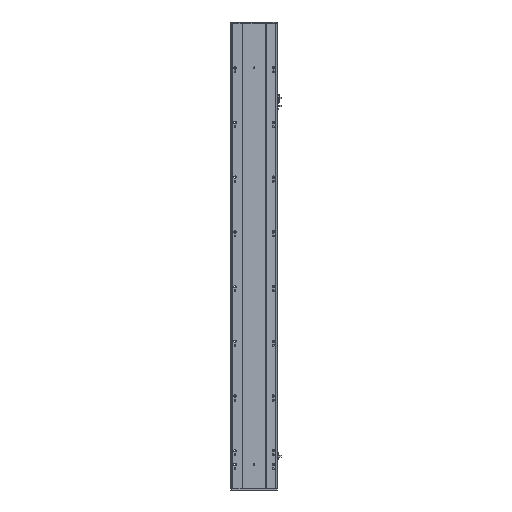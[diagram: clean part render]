
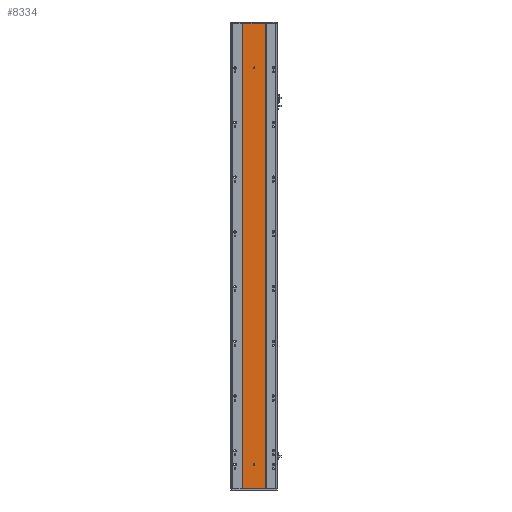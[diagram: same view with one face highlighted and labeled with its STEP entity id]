
A CAD part, front view. The second image highlights one B-rep face of the part: STEP entity #8334.
In plain terms, the highlighted planar face has unit normal (0, -1, 0).
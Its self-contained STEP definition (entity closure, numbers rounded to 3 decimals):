
#60 = EDGE_CURVE ( 'NONE', #26679, #13916, #5240, .T. ) ;
#364 = AXIS2_PLACEMENT_3D ( 'NONE', #14499, #6159, #20816 ) ;
#377 = CIRCLE ( 'NONE', #14694, 3. ) ;
#819 = ORIENTED_EDGE ( 'NONE', *, *, #16381, .F. ) ;
#860 = CARTESIAN_POINT ( 'NONE',  ( 42.916, 2.57, 1701. ) ) ;
#1000 = FACE_OUTER_BOUND ( 'NONE', #8168, .T. ) ;
#1873 = CARTESIAN_POINT ( 'NONE',  ( 85., 2.57, 1538.5 ) ) ;
#1932 = DIRECTION ( 'NONE',  ( -1., 0., 0. ) ) ;
#2008 = ORIENTED_EDGE ( 'NONE', *, *, #13171, .T. ) ;
#2487 = EDGE_CURVE ( 'NONE', #10368, #6114, #14293, .T. ) ;
#3480 = CARTESIAN_POINT ( 'NONE',  ( 85., 2.57, 88.5 ) ) ;
#3994 = DIRECTION ( 'NONE',  ( 0., 0., 1. ) ) ;
#4028 = CARTESIAN_POINT ( 'NONE',  ( 126.916, 2.57, 0. ) ) ;
#4968 = DIRECTION ( 'NONE',  ( 0., 1., 0. ) ) ;
#5101 = DIRECTION ( 'NONE',  ( -1., 0., 0. ) ) ;
#5123 = ORIENTED_EDGE ( 'NONE', *, *, #60, .T. ) ;
#5240 = LINE ( 'NONE', #860, #17032 ) ;
#5579 = DIRECTION ( 'NONE',  ( 0., 0., 1. ) ) ;
#5848 = VERTEX_POINT ( 'NONE', #26553 ) ;
#5956 = LINE ( 'NONE', #10026, #17099 ) ;
#6086 = CARTESIAN_POINT ( 'NONE',  ( 42.916, 2.57, 0. ) ) ;
#6114 = VERTEX_POINT ( 'NONE', #12722 ) ;
#6159 = DIRECTION ( 'NONE',  ( 0., 1., 0. ) ) ;
#6452 = CARTESIAN_POINT ( 'NONE',  ( 126.916, 2.57, 1701. ) ) ;
#7094 = AXIS2_PLACEMENT_3D ( 'NONE', #3480, #18122, #5579 ) ;
#8168 = EDGE_LOOP ( 'NONE', ( #5123, #819, #23618, #10468 ) ) ;
#8291 = CARTESIAN_POINT ( 'NONE',  ( 85., 2.57, 1541.5 ) ) ;
#8334 = ADVANCED_FACE ( 'NONE', ( #11512, #22659, #1000 ), #18693, .F. ) ;
#9940 = VECTOR ( 'NONE', #18682, 1000. ) ;
#10026 = CARTESIAN_POINT ( 'NONE',  ( 42.916, 2.57, 0. ) ) ;
#10119 = CARTESIAN_POINT ( 'NONE',  ( 85., 2.57, 1535.5 ) ) ;
#10189 = CARTESIAN_POINT ( 'NONE',  ( 85., 2.57, 88.5 ) ) ;
#10368 = VERTEX_POINT ( 'NONE', #15622 ) ;
#10468 = ORIENTED_EDGE ( 'NONE', *, *, #15319, .T. ) ;
#10579 = EDGE_LOOP ( 'NONE', ( #2008, #15160 ) ) ;
#11512 = FACE_BOUND ( 'NONE', #21865, .T. ) ;
#12018 = ORIENTED_EDGE ( 'NONE', *, *, #2487, .T. ) ;
#12146 = EDGE_CURVE ( 'NONE', #5848, #19150, #25831, .T. ) ;
#12308 = DIRECTION ( 'NONE',  ( 0., 0., 1. ) ) ;
#12722 = CARTESIAN_POINT ( 'NONE',  ( 85., 2.57, 91.5 ) ) ;
#13171 = EDGE_CURVE ( 'NONE', #16410, #18913, #24843, .T. ) ;
#13916 = VERTEX_POINT ( 'NONE', #24271 ) ;
#14293 = CIRCLE ( 'NONE', #7094, 3. ) ;
#14499 = CARTESIAN_POINT ( 'NONE',  ( 42.916, 2.57, 0. ) ) ;
#14694 = AXIS2_PLACEMENT_3D ( 'NONE', #1873, #16539, #3994 ) ;
#14880 = AXIS2_PLACEMENT_3D ( 'NONE', #17514, #4968, #19635 ) ;
#15160 = ORIENTED_EDGE ( 'NONE', *, *, #15989, .T. ) ;
#15319 = EDGE_CURVE ( 'NONE', #5848, #26679, #20447, .T. ) ;
#15350 = CARTESIAN_POINT ( 'NONE',  ( 42.916, 2.57, 0. ) ) ;
#15622 = CARTESIAN_POINT ( 'NONE',  ( 85., 2.57, 85.5 ) ) ;
#15989 = EDGE_CURVE ( 'NONE', #18913, #16410, #377, .T. ) ;
#16381 = EDGE_CURVE ( 'NONE', #19150, #13916, #5956, .T. ) ;
#16410 = VERTEX_POINT ( 'NONE', #10119 ) ;
#16539 = DIRECTION ( 'NONE',  ( 0., 1., 0. ) ) ;
#17032 = VECTOR ( 'NONE', #5101, 1000. ) ;
#17099 = VECTOR ( 'NONE', #24686, 1000. ) ;
#17514 = CARTESIAN_POINT ( 'NONE',  ( 85., 2.57, 1538.5 ) ) ;
#17523 = CIRCLE ( 'NONE', #24375, 3. ) ;
#18122 = DIRECTION ( 'NONE',  ( 0., 1., 0. ) ) ;
#18682 = DIRECTION ( 'NONE',  ( 0., 0., 1. ) ) ;
#18693 = PLANE ( 'NONE',  #364 ) ;
#18913 = VERTEX_POINT ( 'NONE', #8291 ) ;
#19150 = VERTEX_POINT ( 'NONE', #15350 ) ;
#19635 = DIRECTION ( 'NONE',  ( 0., 0., 1. ) ) ;
#20269 = VECTOR ( 'NONE', #1932, 1000. ) ;
#20447 = LINE ( 'NONE', #4028, #9940 ) ;
#20816 = DIRECTION ( 'NONE',  ( 0., 0., 1. ) ) ;
#21865 = EDGE_LOOP ( 'NONE', ( #12018, #24496 ) ) ;
#21935 = EDGE_CURVE ( 'NONE', #6114, #10368, #17523, .T. ) ;
#22659 = FACE_BOUND ( 'NONE', #10579, .T. ) ;
#23618 = ORIENTED_EDGE ( 'NONE', *, *, #12146, .F. ) ;
#24271 = CARTESIAN_POINT ( 'NONE',  ( 42.916, 2.57, 1701. ) ) ;
#24375 = AXIS2_PLACEMENT_3D ( 'NONE', #10189, #24866, #12308 ) ;
#24496 = ORIENTED_EDGE ( 'NONE', *, *, #21935, .T. ) ;
#24686 = DIRECTION ( 'NONE',  ( 0., 0., 1. ) ) ;
#24843 = CIRCLE ( 'NONE', #14880, 3. ) ;
#24866 = DIRECTION ( 'NONE',  ( 0., 1., 0. ) ) ;
#25831 = LINE ( 'NONE', #6086, #20269 ) ;
#26553 = CARTESIAN_POINT ( 'NONE',  ( 126.916, 2.57, 0. ) ) ;
#26679 = VERTEX_POINT ( 'NONE', #6452 ) ;
